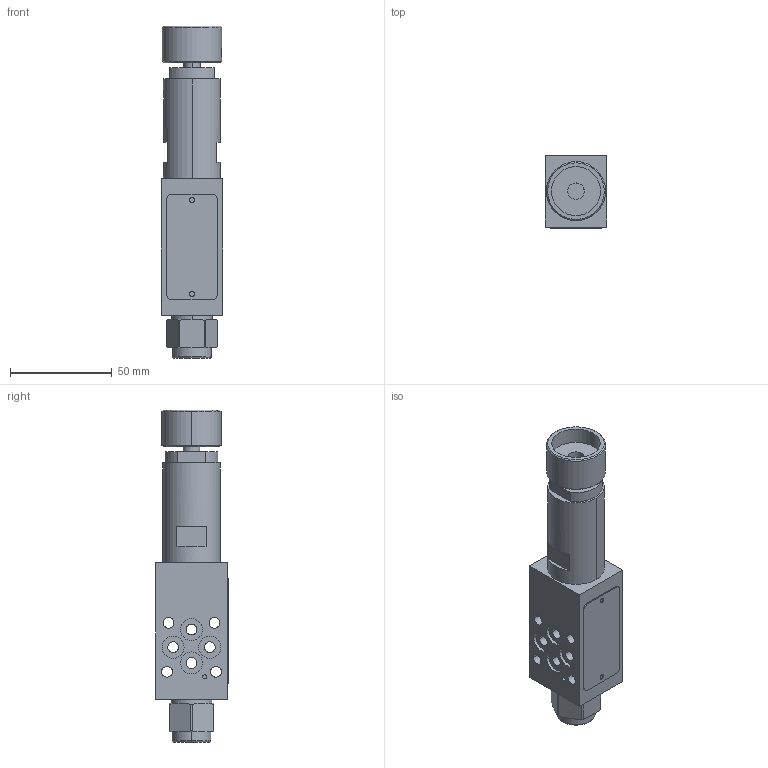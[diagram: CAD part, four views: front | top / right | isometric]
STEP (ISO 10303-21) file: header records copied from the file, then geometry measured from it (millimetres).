
FILE_DESCRIPTION((''),'2;1');
FILE_NAME('VRP2_04_AR_6_225643','2023-01-03T',('l.soukupova'),(''),'PRO/ENGINEER BY PARAMETRIC TECHNOLOGY CORPORATION, 2015440','PRO/ENGINEER BY PARAMETRIC TECHNOLOGY CORPORATION, 2015440','');
FILE_SCHEMA(('AUTOMOTIVE_DESIGN { 1 0 10303 214 1 1 1 1 }'));
Length unit declared in the file: millimetre
Products named in the file (1): VRP2_04_AR_6_225643
Bounding box: 30 x 35.5 x 163 mm (x, y, z)
Volume: 113061.9 mm3; surface area: 25313.3 mm2
Topology: 2 solids, 3 shells, 124 faces, 579 edges, 501 vertices
Faces by surface type: cylinder 62, plane 50, cone 10, torus 2
Entity records: 8286 total; most frequent: CARTESIAN_POINT 1335, DIRECTION 947, PRESENTATION_STYLE_ASSIGNMENT 652, STYLED_ITEM 597, CURVE_STYLE 595, ORIENTED_EDGE 584, VECTOR 421, LINE 421
